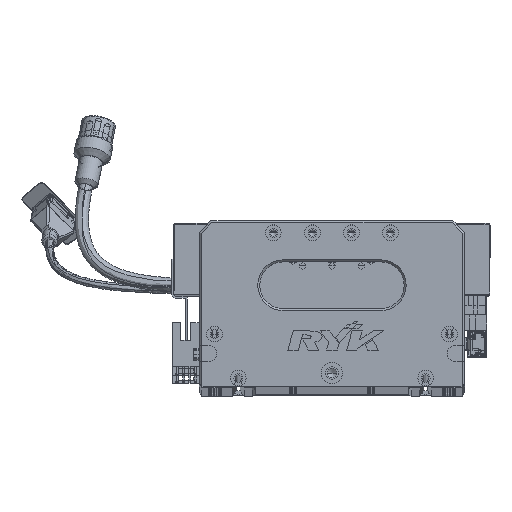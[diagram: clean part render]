
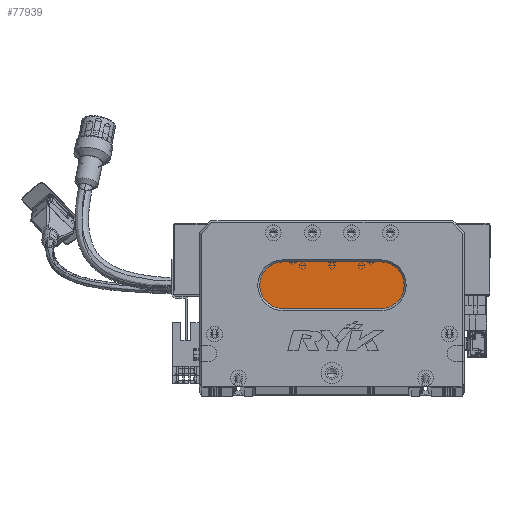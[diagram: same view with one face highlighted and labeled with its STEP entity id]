
A CAD part, top view. The second image highlights one B-rep face of the part: STEP entity #77939.
In plain terms, the highlighted planar face has unit normal (0, 0, 1) as drawn and (0, 0, -1) by its records, which use the part's own axes.
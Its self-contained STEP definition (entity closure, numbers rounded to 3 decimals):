
#1393 = LINE ( 'NONE', #63908, #62841 ) ;
#3717 = CARTESIAN_POINT ( 'NONE',  ( 43., 52., 13. ) ) ;
#7500 = AXIS2_PLACEMENT_3D ( 'NONE', #18396, #98969, #113016 ) ;
#8667 = CIRCLE ( 'NONE', #24063, 12. ) ;
#11654 = VERTEX_POINT ( 'NONE', #96359 ) ;
#17791 = CARTESIAN_POINT ( 'NONE',  ( 43., 40., 13. ) ) ;
#18396 = CARTESIAN_POINT ( 'NONE',  ( 93., 52., 13. ) ) ;
#20876 = AXIS2_PLACEMENT_3D ( 'NONE', #3717, #33216, #93968 ) ;
#24063 = AXIS2_PLACEMENT_3D ( 'NONE', #91572, #31222, #101649 ) ;
#26058 = VERTEX_POINT ( 'NONE', #17791 ) ;
#26302 = CIRCLE ( 'NONE', #121503, 12. ) ;
#28094 = ORIENTED_EDGE ( 'NONE', *, *, #95749, .T. ) ;
#29602 = EDGE_CURVE ( 'NONE', #26058, #55599, #26302, .T. ) ;
#30637 = EDGE_LOOP ( 'NONE', ( #28094, #116474, #63322, #110801, #34189 ) ) ;
#31145 = VERTEX_POINT ( 'NONE', #106229 ) ;
#31222 = DIRECTION ( 'NONE',  ( 0., 0., -1. ) ) ;
#33157 = CARTESIAN_POINT ( 'NONE',  ( 43., 52., 13. ) ) ;
#33216 = DIRECTION ( 'NONE',  ( 0., 0., -1. ) ) ;
#34189 = ORIENTED_EDGE ( 'NONE', *, *, #68746, .T. ) ;
#43413 = FACE_OUTER_BOUND ( 'NONE', #30637, .T. ) ;
#44161 = DIRECTION ( 'NONE',  ( 0., 0., -1. ) ) ;
#45335 = DIRECTION ( 'NONE',  ( 1., 0., 0. ) ) ;
#47833 = VERTEX_POINT ( 'NONE', #101576 ) ;
#47926 = CIRCLE ( 'NONE', #20876, 12. ) ;
#55599 = VERTEX_POINT ( 'NONE', #93199 ) ;
#62841 = VECTOR ( 'NONE', #45335, 1000. ) ;
#63322 = ORIENTED_EDGE ( 'NONE', *, *, #29602, .T. ) ;
#63908 = CARTESIAN_POINT ( 'NONE',  ( 93., 64., 13. ) ) ;
#65633 = DIRECTION ( 'NONE',  ( -1., 0., 0. ) ) ;
#68746 = EDGE_CURVE ( 'NONE', #31145, #11654, #1393, .T. ) ;
#75706 = CARTESIAN_POINT ( 'NONE',  ( 93., 40., 13. ) ) ;
#77939 = ADVANCED_FACE ( 'NONE', ( #43413 ), #130575, .T. ) ;
#79222 = EDGE_CURVE ( 'NONE', #47833, #26058, #99754, .T. ) ;
#91572 = CARTESIAN_POINT ( 'NONE',  ( 93., 52., 13. ) ) ;
#93199 = CARTESIAN_POINT ( 'NONE',  ( 31., 52., 13. ) ) ;
#93968 = DIRECTION ( 'NONE',  ( -1., 0., 0. ) ) ;
#95749 = EDGE_CURVE ( 'NONE', #11654, #47833, #8667, .T. ) ;
#96359 = CARTESIAN_POINT ( 'NONE',  ( 93., 64., 13. ) ) ;
#98969 = DIRECTION ( 'NONE',  ( 0., 0., -1. ) ) ;
#99754 = LINE ( 'NONE', #75706, #109246 ) ;
#101576 = CARTESIAN_POINT ( 'NONE',  ( 93., 40., 13. ) ) ;
#101649 = DIRECTION ( 'NONE',  ( -1., 0., 0. ) ) ;
#104893 = DIRECTION ( 'NONE',  ( -1., 0., 0. ) ) ;
#106229 = CARTESIAN_POINT ( 'NONE',  ( 43., 64., 13. ) ) ;
#109246 = VECTOR ( 'NONE', #65633, 1000. ) ;
#110801 = ORIENTED_EDGE ( 'NONE', *, *, #113017, .T. ) ;
#113016 = DIRECTION ( 'NONE',  ( -1., 0., 0. ) ) ;
#113017 = EDGE_CURVE ( 'NONE', #55599, #31145, #47926, .T. ) ;
#116474 = ORIENTED_EDGE ( 'NONE', *, *, #79222, .T. ) ;
#121503 = AXIS2_PLACEMENT_3D ( 'NONE', #33157, #44161, #104893 ) ;
#130575 = PLANE ( 'NONE',  #7500 ) ;
